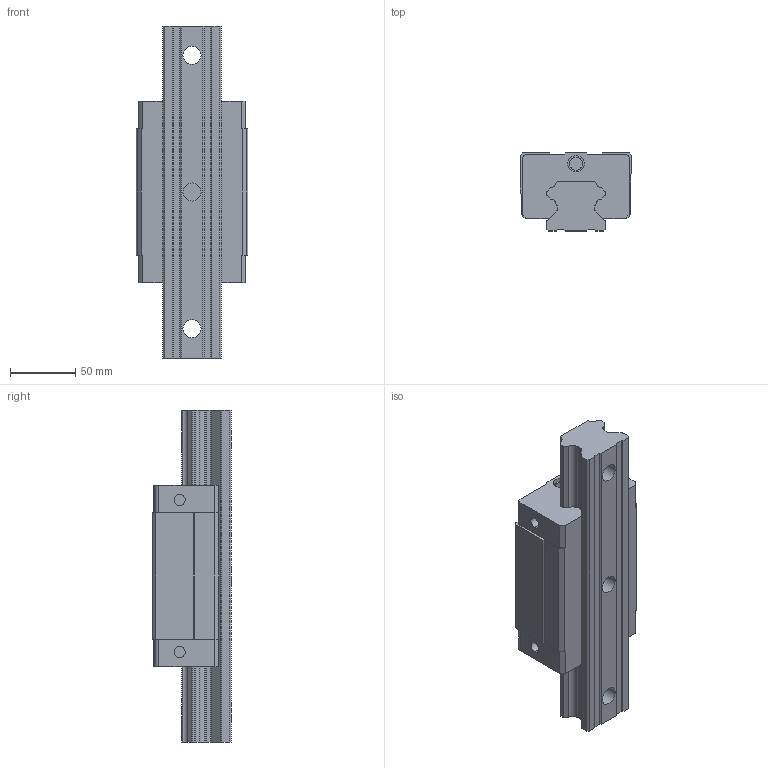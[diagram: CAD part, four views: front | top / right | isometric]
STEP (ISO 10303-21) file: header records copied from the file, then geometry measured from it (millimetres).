
FILE_DESCRIPTION((''),'2;1');
FILE_NAME('HGL45CA_ASM','2008-07-11T',('immo'),(''),'PRO/ENGINEER BY PARAMETRIC TECHNOLOGY CORPORATION, 2004360','PRO/ENGINEER BY PARAMETRIC TECHNOLOGY CORPORATION, 2004360','');
FILE_SCHEMA(('CONFIG_CONTROL_DESIGN'));
Length unit declared in the file: millimetre
Products named in the file (6): PRT0003; PRT0001; HG45_ASM_2_ASM_ASM_ASM; HGH45C_ASM_ASM_ASM; HGL45C_ASM_ASM; HGL45CA_ASM
Assembly tree (5 placements, depth 5):
  HGL45CA_ASM
    HGL45C_ASM_ASM
      HGH45C_ASM_ASM_ASM
        HG45_ASM_2_ASM_ASM_ASM
          PRT0003
          PRT0001
Bounding box: 86 x 60 x 255 mm (x, y, z)
Volume: 767841.4 mm3; surface area: 108663.5 mm2
Topology: 2 solids, 2 shells, 181 faces, 506 edges, 348 vertices
Faces by surface type: plane 107, cylinder 74
Entity records: 6080 total; most frequent: CARTESIAN_POINT 1050, DIRECTION 1046, ORIENTED_EDGE 1012, EDGE_CURVE 506, VECTOR 358, LINE 358, VERTEX_POINT 348, AXIS2_PLACEMENT_3D 344
